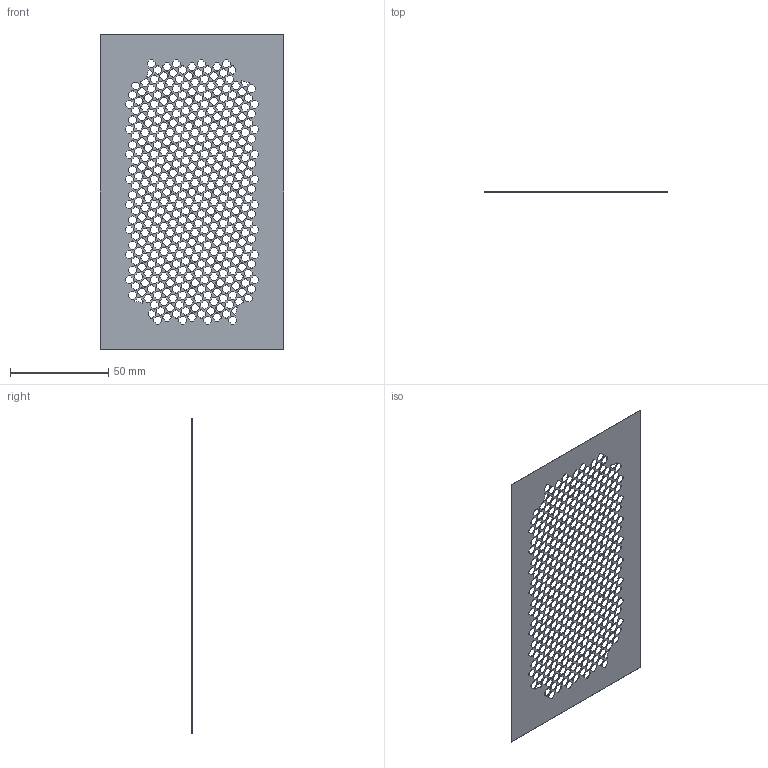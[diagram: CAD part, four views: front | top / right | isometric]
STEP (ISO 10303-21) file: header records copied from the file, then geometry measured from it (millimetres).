
FILE_DESCRIPTION (( 'STEP AP214' ), '1' );
FILE_NAME ('StencilMask(1_3).STEP', '2024-07-17T07:36:41', ( '' ), ( '' ), 'SwSTEP 2.0', 'SolidWorks 2022', '' );
FILE_SCHEMA (( 'AUTOMOTIVE_DESIGN' ));
Length unit declared in the file: millimetre
Products named in the file (1): StencilMask(1_3)
Bounding box: 93 x 0.15 x 160 mm (x, y, z)
Volume: 1484.9 mm3; surface area: 20660.8 mm2
Topology: 1 solids, 1 shells, 3666 faces, 10992 edges, 7328 vertices
Faces by surface type: cylinder 2036, plane 1630
Entity records: 126670 total; most frequent: DIRECTION 22398, CARTESIAN_POINT 21987, ORIENTED_EDGE 21984, EDGE_CURVE 10992, AXIS2_PLACEMENT_3D 7739, VERTEX_POINT 7328, VECTOR 6920, LINE 6920
